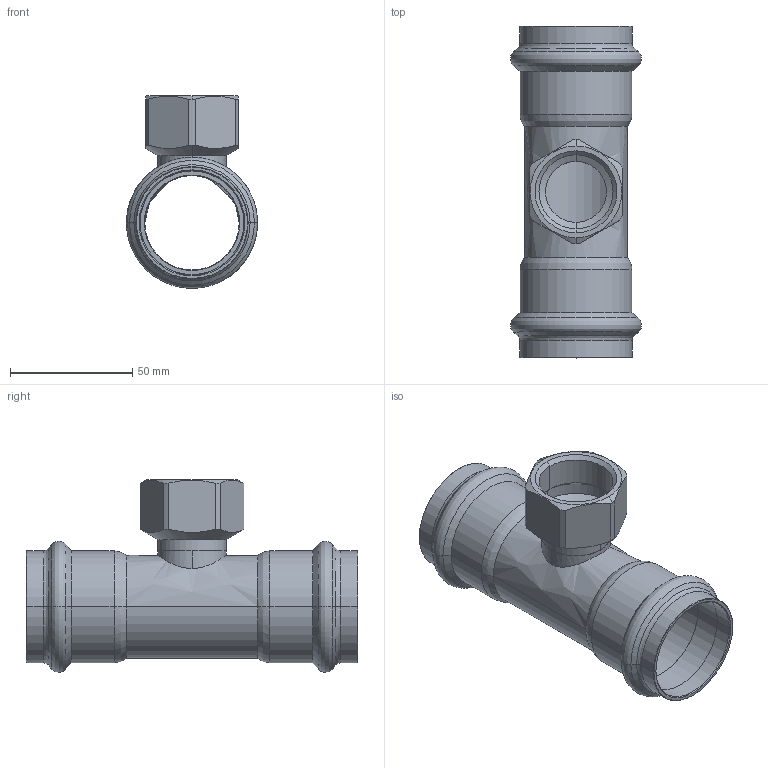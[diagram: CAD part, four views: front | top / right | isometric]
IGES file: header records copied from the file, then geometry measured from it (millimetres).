
Start section: Elysium IGES Interface
Global section: file name: C:\Users\Wallenburg\Desktop\3d modellen sudo\S-Pr VP\SP6130GV\6130GVW42142.igs; native system: CoCreate Modeling 17.00A  17-Jun-2010; preprocessor: CoCreate IGES_3D V2.2; author: Unknown; organization: Unknown; date: 20130121.152918; units: millimetre
Bounding box: 53.61 x 135.73 x 78.79 mm (x, y, z)
Volume: 50956.5 mm3; surface area: 45836.1 mm2
Topology: 1 solids, 1 shells, 116 faces, 258 edges, 144 vertices
Faces by surface type: bspline 116
